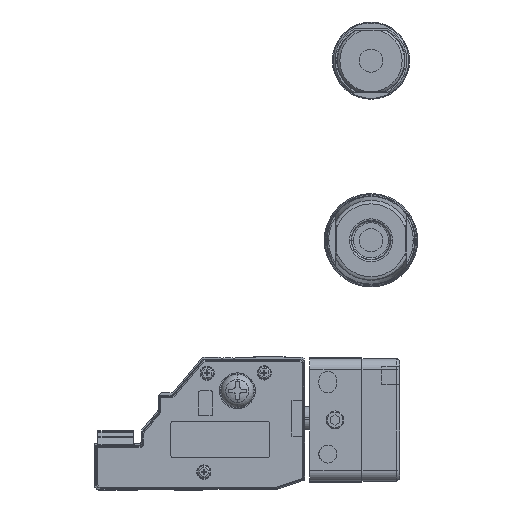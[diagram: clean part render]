
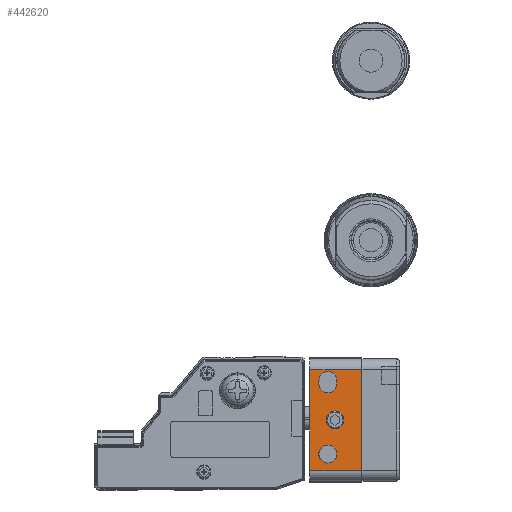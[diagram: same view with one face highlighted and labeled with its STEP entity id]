
A CAD part, left-side view. The second image highlights one B-rep face of the part: STEP entity #442620.
In plain terms, the highlighted planar face has unit normal (-1, 0, 0) as drawn and (0, 0, -1) by its records, which use the part's own axes.
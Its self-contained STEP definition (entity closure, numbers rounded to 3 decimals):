
#441570=CARTESIAN_POINT('',(-201.714,217.373,
0.));
#441580=DIRECTION('',(-0.,-0.,-1.));
#441590=DIRECTION('',(0.,-1.,0.));
#441600=AXIS2_PLACEMENT_3D('',#441570,#441580,#441590);
#441610=PLANE('',#441600);
#441620=CARTESIAN_POINT('',(-191.714,212.373,
0.));
#441630=DIRECTION('',(0.,0.,-1.));
#441640=DIRECTION('',(-1.,0.,0.));
#441650=AXIS2_PLACEMENT_3D('',#441620,#441630,#441640);
#441660=CIRCLE('',#441650,2.5);
#441670=CARTESIAN_POINT('',(-191.714,209.873,
0.));
#441680=VERTEX_POINT('',#441670);
#441690=CARTESIAN_POINT('',(-191.714,214.873,
0.));
#441700=VERTEX_POINT('',#441690);
#441710=EDGE_CURVE('',#441680,#441700,#441660,.T.);
#441720=ORIENTED_EDGE('',*,*,#441710,.F.);
#441730=CARTESIAN_POINT('',(0.,214.873,0.));
#441740=DIRECTION('',(-1.,0.,0.));
#441750=VECTOR('',#441740,1.);
#441760=LINE('',#441730,#441750);
#441770=CARTESIAN_POINT('',(-190.714,214.873,
0.));
#441780=VERTEX_POINT('',#441770);
#441790=EDGE_CURVE('',#441780,#441700,#441760,.T.);
#441800=ORIENTED_EDGE('',*,*,#441790,.T.);
#441810=CARTESIAN_POINT('',(-190.714,212.373,
0.));
#441820=DIRECTION('',(0.,0.,-1.));
#441830=DIRECTION('',(-1.,0.,0.));
#441840=AXIS2_PLACEMENT_3D('',#441810,#441820,#441830);
#441850=CIRCLE('',#441840,2.5);
#441860=CARTESIAN_POINT('',(-190.714,209.873,
0.));
#441870=VERTEX_POINT('',#441860);
#441880=EDGE_CURVE('',#441780,#441870,#441850,.T.);
#441890=ORIENTED_EDGE('',*,*,#441880,.F.);
#441900=CARTESIAN_POINT('',(0.,209.873,0.));
#441910=DIRECTION('',(1.,0.,0.));
#441920=VECTOR('',#441910,1.);
#441930=LINE('',#441900,#441920);
#441940=EDGE_CURVE('',#441680,#441870,#441930,.T.);
#441950=ORIENTED_EDGE('',*,*,#441940,.T.);
#441960=EDGE_LOOP('',(#441950,#441890,#441800,#441720));
#441970=FACE_BOUND('',#441960,.T.);
#441980=CARTESIAN_POINT('',(-171.214,212.373,
0.));
#441990=DIRECTION('',(0.,0.,-1.));
#442000=DIRECTION('',(-1.,0.,0.));
#442010=AXIS2_PLACEMENT_3D('',#441980,#441990,#442000);
#442020=CIRCLE('',#442010,2.5);
#442030=CARTESIAN_POINT('',(-173.714,212.373,
0.));
#442040=VERTEX_POINT('',#442030);
#442050=CARTESIAN_POINT('',(-168.714,212.373,
0.));
#442060=VERTEX_POINT('',#442050);
#442070=EDGE_CURVE('',#442040,#442060,#442020,.T.);
#442080=ORIENTED_EDGE('',*,*,#442070,.F.);
#442090=EDGE_CURVE('',#442060,#442040,#442020,.T.);
#442100=ORIENTED_EDGE('',*,*,#442090,.F.);
#442110=EDGE_LOOP('',(#442100,#442080));
#442120=FACE_BOUND('',#442110,.T.);
#442130=CARTESIAN_POINT('',(-180.714,210.373,
0.));
#442140=DIRECTION('',(0.,0.,-1.));
#442150=DIRECTION('',(-1.,0.,0.));
#442160=AXIS2_PLACEMENT_3D('',#442130,#442140,#442150);
#442170=CIRCLE('',#442160,2.5);
#442180=CARTESIAN_POINT('',(-183.214,210.373,
0.));
#442190=VERTEX_POINT('',#442180);
#442200=CARTESIAN_POINT('',(-178.214,210.373,
0.));
#442210=VERTEX_POINT('',#442200);
#442220=EDGE_CURVE('',#442190,#442210,#442170,.T.);
#442230=ORIENTED_EDGE('',*,*,#442220,.F.);
#442240=EDGE_CURVE('',#442210,#442190,#442170,.T.);
#442250=ORIENTED_EDGE('',*,*,#442240,.F.);
#442260=EDGE_LOOP('',(#442250,#442230));
#442270=FACE_BOUND('',#442260,.T.);
#442280=CARTESIAN_POINT('',(-166.714,-2.,0.));
#442290=DIRECTION('',(0.,1.,0.));
#442300=VECTOR('',#442290,1.);
#442310=LINE('',#442280,#442300);
#442320=CARTESIAN_POINT('',(-166.714,203.073,
0.));
#442330=VERTEX_POINT('',#442320);
#442340=CARTESIAN_POINT('',(-166.714,217.373,
0.));
#442350=VERTEX_POINT('',#442340);
#442360=EDGE_CURVE('',#442330,#442350,#442310,.T.);
#442370=ORIENTED_EDGE('',*,*,#442360,.F.);
#442380=CARTESIAN_POINT('',(0.,217.373,0.));
#442390=DIRECTION('',(-1.,0.,0.));
#442400=VECTOR('',#442390,1.);
#442410=LINE('',#442380,#442400);
#442420=CARTESIAN_POINT('',(-194.714,217.373,
0.));
#442430=VERTEX_POINT('',#442420);
#442440=EDGE_CURVE('',#442350,#442430,#442410,.T.);
#442450=ORIENTED_EDGE('',*,*,#442440,.F.);
#442460=CARTESIAN_POINT('',(-194.714,-2.,0.));
#442470=DIRECTION('',(0.,-1.,0.));
#442480=VECTOR('',#442470,1.);
#442490=LINE('',#442460,#442480);
#442500=CARTESIAN_POINT('',(-194.714,203.073,
0.));
#442510=VERTEX_POINT('',#442500);
#442520=EDGE_CURVE('',#442430,#442510,#442490,.T.);
#442530=ORIENTED_EDGE('',*,*,#442520,.F.);
#442540=CARTESIAN_POINT('',(0.,203.073,0.));
#442550=DIRECTION('',(-1.,0.,0.));
#442560=VECTOR('',#442550,1.);
#442570=LINE('',#442540,#442560);
#442580=EDGE_CURVE('',#442330,#442510,#442570,.T.);
#442590=ORIENTED_EDGE('',*,*,#442580,.T.);
#442600=EDGE_LOOP('',(#442590,#442530,#442450,#442370));
#442610=FACE_OUTER_BOUND('',#442600,.T.);
#442620=ADVANCED_FACE('',(#441970,#442120,#442270,#442610),#441610,.T.);
